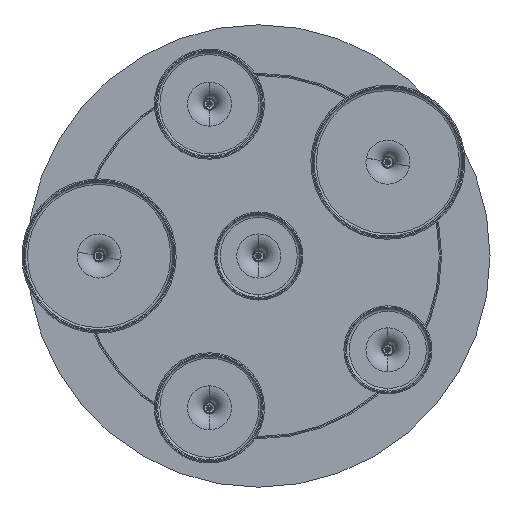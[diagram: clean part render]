
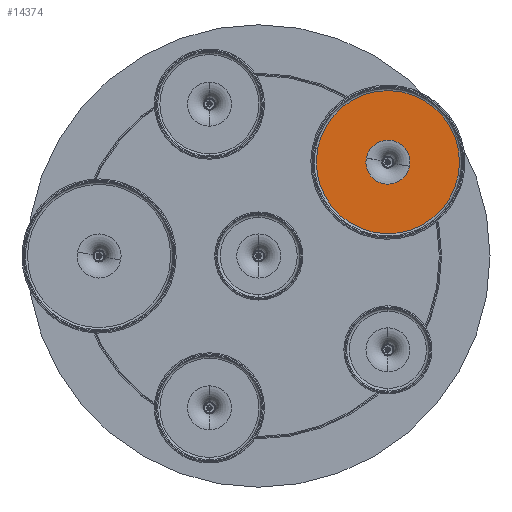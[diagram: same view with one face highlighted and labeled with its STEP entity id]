
A CAD part, front view. The second image highlights one B-rep face of the part: STEP entity #14374.
In plain terms, the highlighted planar face has unit normal (0, -1, 0).
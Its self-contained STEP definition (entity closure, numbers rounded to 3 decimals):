
#44 = EDGE_LOOP ( 'NONE', ( #8803, #3034 ) ) ;
#309 = EDGE_CURVE ( 'NONE', #1188, #3758, #12508, .T. ) ;
#515 = CARTESIAN_POINT ( 'NONE',  ( 0., 62.762, 0. ) ) ;
#803 = EDGE_LOOP ( 'NONE', ( #6743, #15234 ) ) ;
#1177 = DIRECTION ( 'NONE',  ( 1., 0., 0. ) ) ;
#1188 = VERTEX_POINT ( 'NONE', #7220 ) ;
#1459 = CIRCLE ( 'NONE', #10517, 65. ) ;
#1567 = DIRECTION ( 'NONE',  ( 0., -1., 0. ) ) ;
#1852 = CARTESIAN_POINT ( 'NONE',  ( -65., 62.762, 0. ) ) ;
#3034 = ORIENTED_EDGE ( 'NONE', *, *, #5721, .F. ) ;
#3060 = EDGE_CURVE ( 'NONE', #8156, #8705, #7635, .T. ) ;
#3296 = DIRECTION ( 'NONE',  ( -1., 0., 0. ) ) ;
#3758 = VERTEX_POINT ( 'NONE', #14590 ) ;
#5721 = EDGE_CURVE ( 'NONE', #3758, #1188, #9455, .T. ) ;
#6610 = EDGE_CURVE ( 'NONE', #8705, #8156, #1459, .T. ) ;
#6743 = ORIENTED_EDGE ( 'NONE', *, *, #6610, .T. ) ;
#6829 = AXIS2_PLACEMENT_3D ( 'NONE', #8092, #9770, #13011 ) ;
#7117 = AXIS2_PLACEMENT_3D ( 'NONE', #7832, #12837, #12761 ) ;
#7220 = CARTESIAN_POINT ( 'NONE',  ( 20., 62.762, 0. ) ) ;
#7635 = CIRCLE ( 'NONE', #7117, 65. ) ;
#7832 = CARTESIAN_POINT ( 'NONE',  ( 0., 62.762, 0. ) ) ;
#8092 = CARTESIAN_POINT ( 'NONE',  ( 0., 62.762, 0. ) ) ;
#8156 = VERTEX_POINT ( 'NONE', #13697 ) ;
#8221 = DIRECTION ( 'NONE',  ( 0., 1., 0. ) ) ;
#8705 = VERTEX_POINT ( 'NONE', #9810 ) ;
#8803 = ORIENTED_EDGE ( 'NONE', *, *, #309, .F. ) ;
#9195 = FACE_BOUND ( 'NONE', #44, .T. ) ;
#9455 = CIRCLE ( 'NONE', #15136, 20. ) ;
#9512 = FACE_OUTER_BOUND ( 'NONE', #803, .T. ) ;
#9770 = DIRECTION ( 'NONE',  ( 0., -1., 0. ) ) ;
#9810 = CARTESIAN_POINT ( 'NONE',  ( 65., 62.762, 0. ) ) ;
#10114 = AXIS2_PLACEMENT_3D ( 'NONE', #1852, #8221, #3296 ) ;
#10517 = AXIS2_PLACEMENT_3D ( 'NONE', #10955, #12160, #1177 ) ;
#10955 = CARTESIAN_POINT ( 'NONE',  ( 0., 62.762, 0. ) ) ;
#11940 = PLANE ( 'NONE',  #10114 ) ;
#12160 = DIRECTION ( 'NONE',  ( 0., -1., 0. ) ) ;
#12508 = CIRCLE ( 'NONE', #6829, 20. ) ;
#12761 = DIRECTION ( 'NONE',  ( 1., 0., 0. ) ) ;
#12837 = DIRECTION ( 'NONE',  ( 0., -1., 0. ) ) ;
#13011 = DIRECTION ( 'NONE',  ( 1., 0., 0. ) ) ;
#13697 = CARTESIAN_POINT ( 'NONE',  ( -65., 62.762, 0. ) ) ;
#13920 = DIRECTION ( 'NONE',  ( 1., 0., 0. ) ) ;
#14374 = ADVANCED_FACE ( 'NONE', ( #9195, #9512 ), #11940, .F. ) ;
#14590 = CARTESIAN_POINT ( 'NONE',  ( -20., 62.762, 0. ) ) ;
#15136 = AXIS2_PLACEMENT_3D ( 'NONE', #515, #1567, #13920 ) ;
#15234 = ORIENTED_EDGE ( 'NONE', *, *, #3060, .T. ) ;
